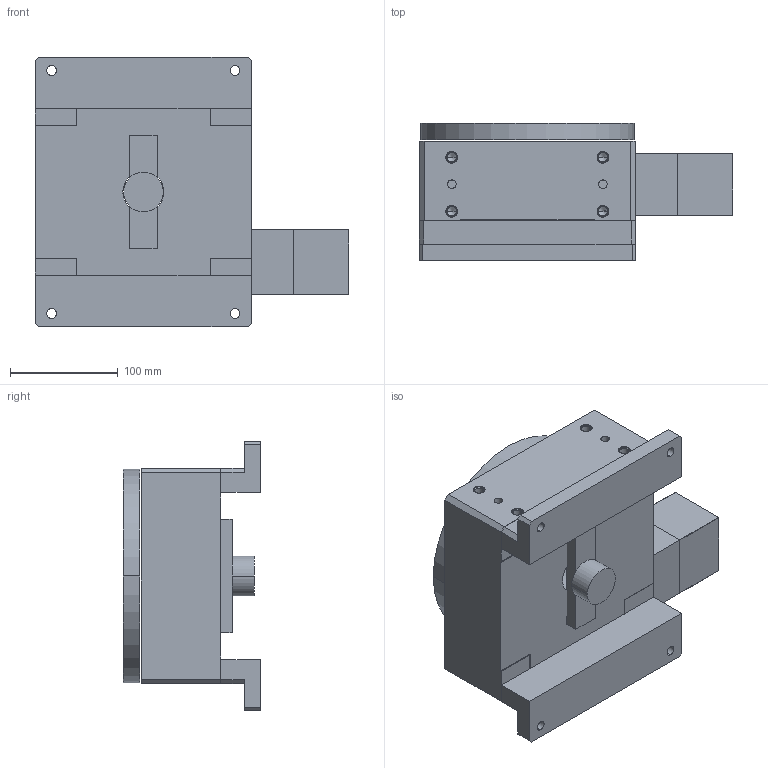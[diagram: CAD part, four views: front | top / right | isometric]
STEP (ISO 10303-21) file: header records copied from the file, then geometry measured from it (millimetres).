
FILE_DESCRIPTION((''),'2;1');
FILE_NAME('R200M7M22E1_ASM','2009-07-02T',('FK20128'),(''),'PRO/ENGINEER BY PARAMETRIC TECHNOLOGY CORPORATION, 2006200','PRO/ENGINEER BY PARAMETRIC TECHNOLOGY CORPORATION, 2006200','');
FILE_SCHEMA(('CONFIG_CONTROL_DESIGN'));
Length unit declared in the file: millimetre
Products named in the file (7): R200M; R200M-M22; R200M-ENCODER-BRKT; R200M-ENCODER-STANDOFF; RXXXM-ENCODER; R200M-E1_ASM; R200M7M22E1_ASM
Assembly tree (7 placements, depth 3):
  R200M7M22E1_ASM
    R200M
    R200M-M22
    R200M-E1_ASM
      R200M-ENCODER-BRKT
      R200M-ENCODER-STANDOFF  x2
      RXXXM-ENCODER
Bounding box: 290.12 x 127 x 250.02 mm (x, y, z)
Volume: 4026318.8 mm3; surface area: 357667.4 mm2
Topology: 7 solids, 27 shells, 308 faces, 758 edges, 494 vertices
Faces by surface type: cylinder 154, plane 112, cone 42
Entity records: 8452 total; most frequent: DIRECTION 1606, CARTESIAN_POINT 1404, ORIENTED_EDGE 1240, EDGE_CURVE 656, AXIS2_PLACEMENT_3D 648, VERTEX_POINT 446, EDGE_LOOP 374, CIRCLE 346
